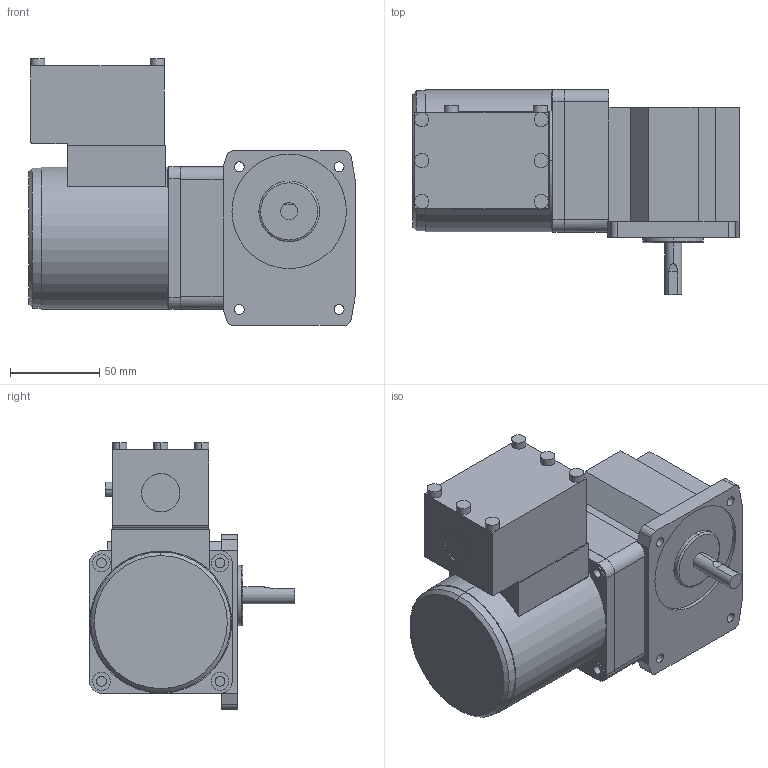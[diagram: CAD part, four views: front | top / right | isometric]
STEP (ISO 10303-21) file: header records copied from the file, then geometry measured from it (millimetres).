
FILE_DESCRIPTION(('starvars output'),'2;1');
FILE_NAME('4IK25GN-FCH _ 4GN90RAA.stp','10:28:05 2015/05/11',( 'Thomas Industrial Network Germany GmbH'),( 'Thomas Industrial Network Germany GmbH'),'unknown preprocess','ACIS' ,'unknown authorization');
FILE_SCHEMA(('AUTOMOTIVE_DESIGN_CC2 {UNKNOWN IMPLEMENTATION LEVEL}'));
Length unit declared in the file: millimetre
Products named in the file (1): PRODUCT_ID_453
Bounding box: 183 x 115 x 149.7 mm (x, y, z)
Volume: 1202655 mm3; surface area: 90365.8 mm2
Topology: 2 solids, 2 shells, 164 faces, 400 edges, 260 vertices
Faces by surface type: plane 84, cylinder 76, torus 2, cone 2
Entity records: 5710 total; most frequent: ORIENTED_EDGE 800, CARTESIAN_POINT 741, DIRECTION 672, EDGE_CURVE 400, VERTEX_POINT 260, AXIS2_PLACEMENT_3D 227, VECTOR 218, LINE 218
